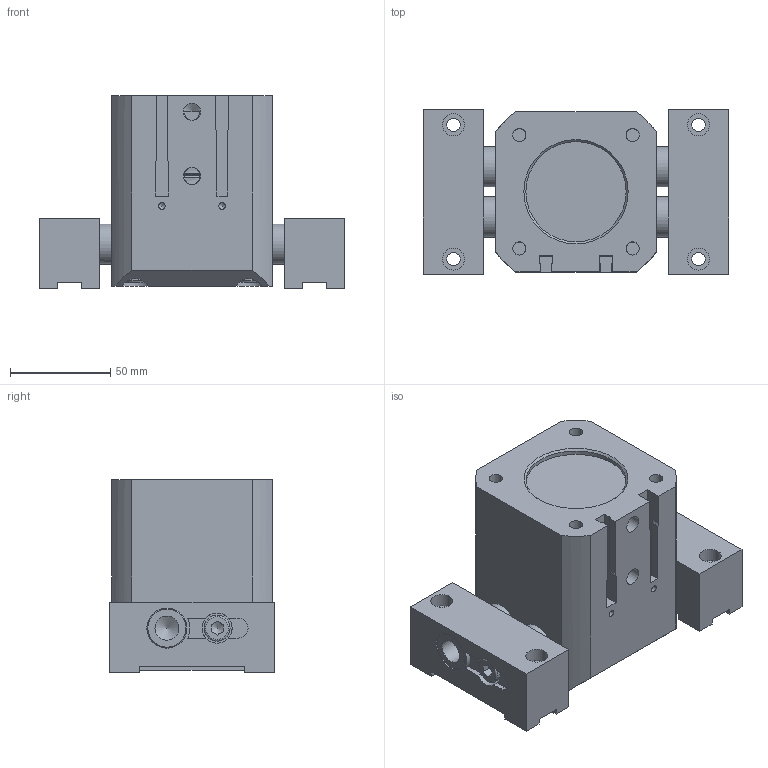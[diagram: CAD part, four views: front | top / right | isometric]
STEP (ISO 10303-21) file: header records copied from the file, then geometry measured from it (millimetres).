
FILE_DESCRIPTION((''),'2;1');
FILE_NAME('T:\CAD\Standard\Daten\3D-Datenbank\GP\4 - 3D-CAD-Daten GP 050-125\GP100\step-Daten\G-GP100-l1-GS+UB open.stp','2013-11-07T11:19:21',('Dirk'),(''),'Autodesk Inventor 2011','Autodesk Inventor 2011','');
FILE_SCHEMA(('AUTOMOTIVE_DESIGN { 1 0 10303 214 1 1 1 1 }'));
Length unit declared in the file: millimetre
Products named in the file (1): Bauteil40
Bounding box: 152.19 x 82 x 96 mm (x, y, z)
Volume: 701952 mm3; surface area: 139983.3 mm2
Topology: 19 solids, 19 shells, 410 faces, 1036 edges, 666 vertices
Faces by surface type: plane 232, cylinder 115, cone 38, torus 24, bspline 1
Full cylindrical faces by diameter (mm): 3.242 x2, 6.647 x10, 8 x6, 8.2 x4, 8.376 x1, 8.566 x2, 9 x2, 10 x1, 11 x6, 12 x2, 13 x6, 15 x8, 20 x7, 22 x5, 23 x2, 24 x1, 28.4 x2, 33 x1, 48 x1, 50 x1, 52 x2, 54.2 x1, 61.1 x2, 62 x1, 64 x4
Entity records: 12537 total; most frequent: CARTESIAN_POINT 2982, DIRECTION 1888, ORIENTED_EDGE 1654, EDGE_CURVE 827, AXIS2_PLACEMENT_3D 727, EDGE_LOOP 621, VERTEX_POINT 596, VECTOR 434
